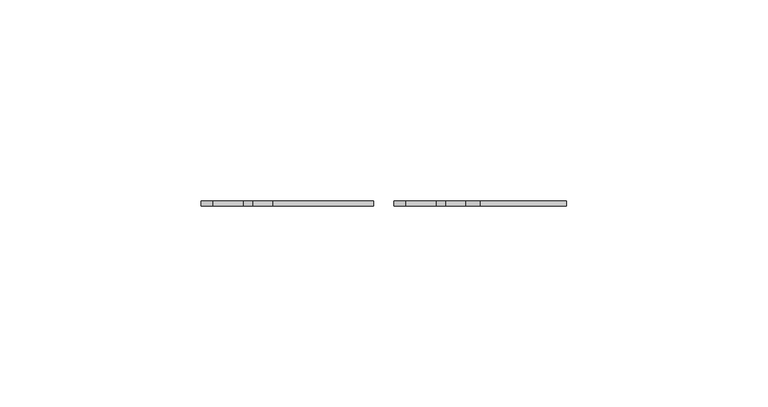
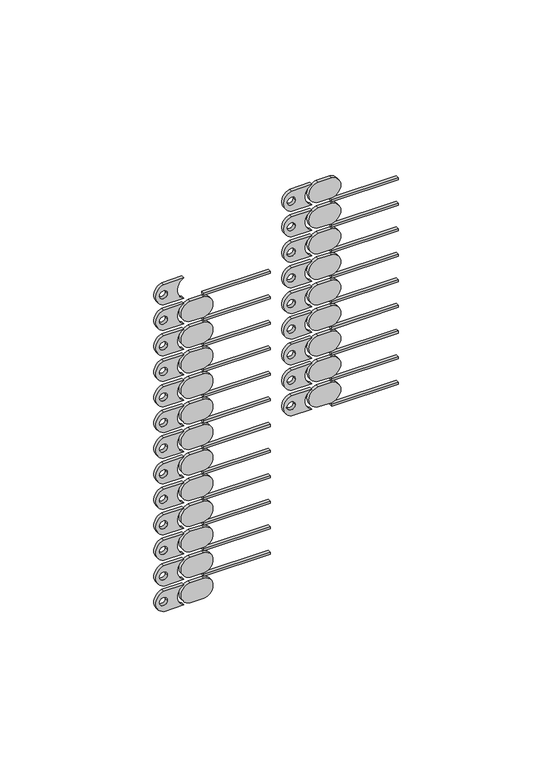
"""IFC4 building model written with IfcOpenShell, lengths in millimetres: alarm geometry, БИС-Р_тип модель : БИС-Р."""

from ifc_helpers import new_model, si_unit, point, frame, frame_2d, origin, place, context, project, spatial, polyline, circle_curve, trimmed, segment, composite_curve, outline, extrude, source, transform, mapped, element, save


def alarm_7a4e420f(model_context):
    return source(origin(), model_context, "Body", "SweptSolid", [
        extrude(outline(composite_curve([segment(polyline([(-98.2025772, 27.9937109), (-98.2025772, 35.492621)]), True, "CONTINUOUS"), segment(trimmed(circle_curve(frame_2d((-94.2003936, 37.4444958)), 4.4527845), [point((-98.2025772, 35.492621))], [point((-90.1982099, 35.492621))], True, "CARTESIAN"), True, "CONTINUOUS"), segment(polyline([(-90.1982099, 35.492621), (-90.1982099, 27.9937109)]), True, "CONTINUOUS"), segment(trimmed(circle_curve(frame_2d((-94.2003936, 29.16194)), 4.1692006), [point((-90.1982099, 27.9937109))], [point((-98.2025772, 27.9937109))], False, "CARTESIAN"), True, "CONTINUOUS")], self_intersect=False), holes=[composite_curve([segment(trimmed(circle_curve(frame_2d((-94.2003936, 27.8863884)), 1.5), [point((-94.2003936, 26.3863884))], [point((-94.2003936, 29.3863884))], True, "CARTESIAN"), True, "CONTINUOUS"), segment(trimmed(circle_curve(frame_2d((-94.2003936, 27.8863884)), 1.5), [point((-94.2003936, 29.3863884))], [point((-94.2003936, 26.3863884))], True, "CARTESIAN"), True, "CONTINUOUS")], self_intersect=False)]), frame((0.0, -14.3, 0.0), z_axis=(0.0, 1.0, 0.0), x_axis=(0.0, 0.0, 1.0)), (0.0, 0.0, 1.0), 1.3),
        extrude(outline(polyline([(67.9899793, -14.3), (42.9899793, -14.3), (42.9899793, -13.0), (67.9899793, -13.0), (67.9899793, -14.3)])), frame((0.0, 0.0, -99.6660186), z_axis=(0.0, 0.0, 1.0), x_axis=(1.0, 0.0, 0.0)), (0.0, 0.0, 1.0), 0.8214556),
        extrude(outline(composite_curve([segment(trimmed(circle_curve(frame_2d((-94.2003936, 42.4529259)), 4.0380565), [point((-98.2025772, 42.9899793))], [point((-90.1982099, 42.9899793))], False, "CARTESIAN"), True, "CONTINUOUS"), segment(polyline([(-90.1982099, 42.9899793), (-90.1982099, 37.9890848)]), True, "CONTINUOUS"), segment(trimmed(circle_curve(frame_2d((-94.2003936, 38.5403885)), 4.0399765), [point((-90.1982099, 37.9890848))], [point((-98.2025772, 37.9890848))], False, "CARTESIAN"), True, "CONTINUOUS"), segment(polyline([(-98.2025772, 37.9890848), (-98.2025772, 42.9899793)]), True, "CONTINUOUS")], self_intersect=False)), frame((0.0, -14.3, 0.0), z_axis=(0.0, 1.0, 0.0), x_axis=(0.0, 0.0, 1.0)), (0.0, 0.0, 1.0), 1.3),
        extrude(outline(composite_curve([segment(polyline([(-88.0525772, 27.9937109), (-88.0525772, 35.492621)]), True, "CONTINUOUS"), segment(trimmed(circle_curve(frame_2d((-84.0503936, 37.4444958)), 4.4527845), [point((-88.0525772, 35.492621))], [point((-80.0482099, 35.492621))], True, "CARTESIAN"), True, "CONTINUOUS"), segment(polyline([(-80.0482099, 35.492621), (-80.0482099, 27.9937109)]), True, "CONTINUOUS"), segment(trimmed(circle_curve(frame_2d((-84.0503936, 29.16194)), 4.1692006), [point((-80.0482099, 27.9937109))], [point((-88.0525772, 27.9937109))], False, "CARTESIAN"), True, "CONTINUOUS")], self_intersect=False), holes=[composite_curve([segment(trimmed(circle_curve(frame_2d((-84.0503936, 27.8863884)), 1.5), [point((-84.0503936, 26.3863884))], [point((-84.0503936, 29.3863884))], True, "CARTESIAN"), True, "CONTINUOUS"), segment(trimmed(circle_curve(frame_2d((-84.0503936, 27.8863884)), 1.5), [point((-84.0503936, 29.3863884))], [point((-84.0503936, 26.3863884))], True, "CARTESIAN"), True, "CONTINUOUS")], self_intersect=False)]), frame((0.0, -14.3, 0.0), z_axis=(0.0, 1.0, 0.0), x_axis=(0.0, 0.0, 1.0)), (0.0, 0.0, 1.0), 1.3),
        extrude(outline(polyline([(67.9899793, -14.3), (42.9899793, -14.3), (42.9899793, -13.0), (67.9899793, -13.0), (67.9899793, -14.3)])), frame((0.0, 0.0, -89.5160186), z_axis=(0.0, 0.0, 1.0), x_axis=(1.0, 0.0, 0.0)), (0.0, 0.0, 1.0), 0.8214556),
        extrude(outline(composite_curve([segment(trimmed(circle_curve(frame_2d((-84.0503936, 42.4529259)), 4.0380565), [point((-88.0525772, 42.9899793))], [point((-80.0482099, 42.9899793))], False, "CARTESIAN"), True, "CONTINUOUS"), segment(polyline([(-80.0482099, 42.9899793), (-80.0482099, 37.9890848)]), True, "CONTINUOUS"), segment(trimmed(circle_curve(frame_2d((-84.0503936, 38.5403885)), 4.0399765), [point((-80.0482099, 37.9890848))], [point((-88.0525772, 37.9890848))], False, "CARTESIAN"), True, "CONTINUOUS"), segment(polyline([(-88.0525772, 37.9890848), (-88.0525772, 42.9899793)]), True, "CONTINUOUS")], self_intersect=False)), frame((0.0, -14.3, 0.0), z_axis=(0.0, 1.0, 0.0), x_axis=(0.0, 0.0, 1.0)), (0.0, 0.0, 1.0), 1.3),
        extrude(outline(composite_curve([segment(polyline([(-77.9025772, 27.9937109), (-77.9025772, 35.492621)]), True, "CONTINUOUS"), segment(trimmed(circle_curve(frame_2d((-73.9003936, 37.4444958)), 4.4527845), [point((-77.9025772, 35.492621))], [point((-69.8982099, 35.492621))], True, "CARTESIAN"), True, "CONTINUOUS"), segment(polyline([(-69.8982099, 35.492621), (-69.8982099, 27.9937109)]), True, "CONTINUOUS"), segment(trimmed(circle_curve(frame_2d((-73.9003936, 29.16194)), 4.1692006), [point((-69.8982099, 27.9937109))], [point((-77.9025772, 27.9937109))], False, "CARTESIAN"), True, "CONTINUOUS")], self_intersect=False), holes=[composite_curve([segment(trimmed(circle_curve(frame_2d((-73.9003936, 27.8863884)), 1.5), [point((-73.9003936, 26.3863884))], [point((-73.9003936, 29.3863884))], True, "CARTESIAN"), True, "CONTINUOUS"), segment(trimmed(circle_curve(frame_2d((-73.9003936, 27.8863884)), 1.5), [point((-73.9003936, 29.3863884))], [point((-73.9003936, 26.3863884))], True, "CARTESIAN"), True, "CONTINUOUS")], self_intersect=False)]), frame((0.0, -14.3, 0.0), z_axis=(0.0, 1.0, 0.0), x_axis=(0.0, 0.0, 1.0)), (0.0, 0.0, 1.0), 1.3),
        extrude(outline(polyline([(67.9899793, -14.3), (42.9899793, -14.3), (42.9899793, -13.0), (67.9899793, -13.0), (67.9899793, -14.3)])), frame((0.0, 0.0, -79.3660186), z_axis=(0.0, 0.0, 1.0), x_axis=(1.0, 0.0, 0.0)), (0.0, 0.0, 1.0), 0.8214556),
        extrude(outline(composite_curve([segment(trimmed(circle_curve(frame_2d((-73.9003936, 42.4529259)), 4.0380565), [point((-77.9025772, 42.9899793))], [point((-69.8982099, 42.9899793))], False, "CARTESIAN"), True, "CONTINUOUS"), segment(polyline([(-69.8982099, 42.9899793), (-69.8982099, 37.9890848)]), True, "CONTINUOUS"), segment(trimmed(circle_curve(frame_2d((-73.9003936, 38.5403885)), 4.0399765), [point((-69.8982099, 37.9890848))], [point((-77.9025772, 37.9890848))], False, "CARTESIAN"), True, "CONTINUOUS"), segment(polyline([(-77.9025772, 37.9890848), (-77.9025772, 42.9899793)]), True, "CONTINUOUS")], self_intersect=False)), frame((0.0, -14.3, 0.0), z_axis=(0.0, 1.0, 0.0), x_axis=(0.0, 0.0, 1.0)), (0.0, 0.0, 1.0), 1.3),
        extrude(outline(composite_curve([segment(polyline([(-67.7525772, 27.9937109), (-67.7525772, 35.492621)]), True, "CONTINUOUS"), segment(trimmed(circle_curve(frame_2d((-63.7503936, 37.4444958)), 4.4527845), [point((-67.7525772, 35.492621))], [point((-59.7482099, 35.492621))], True, "CARTESIAN"), True, "CONTINUOUS"), segment(polyline([(-59.7482099, 35.492621), (-59.7482099, 27.9937109)]), True, "CONTINUOUS"), segment(trimmed(circle_curve(frame_2d((-63.7503936, 29.16194)), 4.1692006), [point((-59.7482099, 27.9937109))], [point((-67.7525772, 27.9937109))], False, "CARTESIAN"), True, "CONTINUOUS")], self_intersect=False), holes=[composite_curve([segment(trimmed(circle_curve(frame_2d((-63.7503936, 27.8863884)), 1.5), [point((-63.7503936, 26.3863884))], [point((-63.7503936, 29.3863884))], True, "CARTESIAN"), True, "CONTINUOUS"), segment(trimmed(circle_curve(frame_2d((-63.7503936, 27.8863884)), 1.5), [point((-63.7503936, 29.3863884))], [point((-63.7503936, 26.3863884))], True, "CARTESIAN"), True, "CONTINUOUS")], self_intersect=False)]), frame((0.0, -14.3, 0.0), z_axis=(0.0, 1.0, 0.0), x_axis=(0.0, 0.0, 1.0)), (0.0, 0.0, 1.0), 1.3),
        extrude(outline(polyline([(67.9899793, -14.3), (42.9899793, -14.3), (42.9899793, -13.0), (67.9899793, -13.0), (67.9899793, -14.3)])), frame((0.0, 0.0, -69.2160186), z_axis=(0.0, 0.0, 1.0), x_axis=(1.0, 0.0, 0.0)), (0.0, 0.0, 1.0), 0.8214556),
        extrude(outline(composite_curve([segment(trimmed(circle_curve(frame_2d((-63.7503936, 42.4529259)), 4.0380565), [point((-67.7525772, 42.9899793))], [point((-59.7482099, 42.9899793))], False, "CARTESIAN"), True, "CONTINUOUS"), segment(polyline([(-59.7482099, 42.9899793), (-59.7482099, 37.9890848)]), True, "CONTINUOUS"), segment(trimmed(circle_curve(frame_2d((-63.7503936, 38.5403885)), 4.0399765), [point((-59.7482099, 37.9890848))], [point((-67.7525772, 37.9890848))], False, "CARTESIAN"), True, "CONTINUOUS"), segment(polyline([(-67.7525772, 37.9890848), (-67.7525772, 42.9899793)]), True, "CONTINUOUS")], self_intersect=False)), frame((0.0, -14.3, 0.0), z_axis=(0.0, 1.0, 0.0), x_axis=(0.0, 0.0, 1.0)), (0.0, 0.0, 1.0), 1.3),
        extrude(outline(composite_curve([segment(polyline([(-57.6025772, 27.9937109), (-57.6025772, 35.492621)]), True, "CONTINUOUS"), segment(trimmed(circle_curve(frame_2d((-53.6003936, 37.4444958)), 4.4527845), [point((-57.6025772, 35.492621))], [point((-49.5982099, 35.492621))], True, "CARTESIAN"), True, "CONTINUOUS"), segment(polyline([(-49.5982099, 35.492621), (-49.5982099, 27.9937109)]), True, "CONTINUOUS"), segment(trimmed(circle_curve(frame_2d((-53.6003936, 29.16194)), 4.1692006), [point((-49.5982099, 27.9937109))], [point((-57.6025772, 27.9937109))], False, "CARTESIAN"), True, "CONTINUOUS")], self_intersect=False), holes=[composite_curve([segment(trimmed(circle_curve(frame_2d((-53.6003936, 27.8863884)), 1.5), [point((-53.6003936, 26.3863884))], [point((-53.6003936, 29.3863884))], True, "CARTESIAN"), True, "CONTINUOUS"), segment(trimmed(circle_curve(frame_2d((-53.6003936, 27.8863884)), 1.5), [point((-53.6003936, 29.3863884))], [point((-53.6003936, 26.3863884))], True, "CARTESIAN"), True, "CONTINUOUS")], self_intersect=False)]), frame((0.0, -14.3, 0.0), z_axis=(0.0, 1.0, 0.0), x_axis=(0.0, 0.0, 1.0)), (0.0, 0.0, 1.0), 1.3),
        extrude(outline(polyline([(67.9899793, -14.3), (42.9899793, -14.3), (42.9899793, -13.0), (67.9899793, -13.0), (67.9899793, -14.3)])), frame((0.0, 0.0, -59.0660186), z_axis=(0.0, 0.0, 1.0), x_axis=(1.0, 0.0, 0.0)), (0.0, 0.0, 1.0), 0.8214556),
        extrude(outline(composite_curve([segment(trimmed(circle_curve(frame_2d((-53.6003936, 42.4529259)), 4.0380565), [point((-57.6025772, 42.9899793))], [point((-49.5982099, 42.9899793))], False, "CARTESIAN"), True, "CONTINUOUS"), segment(polyline([(-49.5982099, 42.9899793), (-49.5982099, 37.9890848)]), True, "CONTINUOUS"), segment(trimmed(circle_curve(frame_2d((-53.6003936, 38.5403885)), 4.0399765), [point((-49.5982099, 37.9890848))], [point((-57.6025772, 37.9890848))], False, "CARTESIAN"), True, "CONTINUOUS"), segment(polyline([(-57.6025772, 37.9890848), (-57.6025772, 42.9899793)]), True, "CONTINUOUS")], self_intersect=False)), frame((0.0, -14.3, 0.0), z_axis=(0.0, 1.0, 0.0), x_axis=(0.0, 0.0, 1.0)), (0.0, 0.0, 1.0), 1.3),
        extrude(outline(composite_curve([segment(polyline([(-47.4525772, 27.9937109), (-47.4525772, 35.492621)]), True, "CONTINUOUS"), segment(trimmed(circle_curve(frame_2d((-43.4503936, 37.4444958)), 4.4527845), [point((-47.4525772, 35.492621))], [point((-39.4482099, 35.492621))], True, "CARTESIAN"), True, "CONTINUOUS"), segment(polyline([(-39.4482099, 35.492621), (-39.4482099, 27.9937109)]), True, "CONTINUOUS"), segment(trimmed(circle_curve(frame_2d((-43.4503936, 29.16194)), 4.1692006), [point((-39.4482099, 27.9937109))], [point((-47.4525772, 27.9937109))], False, "CARTESIAN"), True, "CONTINUOUS")], self_intersect=False), holes=[composite_curve([segment(trimmed(circle_curve(frame_2d((-43.4503936, 27.8863884)), 1.5), [point((-43.4503936, 26.3863884))], [point((-43.4503936, 29.3863884))], True, "CARTESIAN"), True, "CONTINUOUS"), segment(trimmed(circle_curve(frame_2d((-43.4503936, 27.8863884)), 1.5), [point((-43.4503936, 29.3863884))], [point((-43.4503936, 26.3863884))], True, "CARTESIAN"), True, "CONTINUOUS")], self_intersect=False)]), frame((0.0, -14.3, 0.0), z_axis=(0.0, 1.0, 0.0), x_axis=(0.0, 0.0, 1.0)), (0.0, 0.0, 1.0), 1.3),
        extrude(outline(polyline([(67.9899793, -14.3), (42.9899793, -14.3), (42.9899793, -13.0), (67.9899793, -13.0), (67.9899793, -14.3)])), frame((0.0, 0.0, -48.9160186), z_axis=(0.0, 0.0, 1.0), x_axis=(1.0, 0.0, 0.0)), (0.0, 0.0, 1.0), 0.8214556),
        extrude(outline(composite_curve([segment(trimmed(circle_curve(frame_2d((-43.4503936, 42.4529259)), 4.0380565), [point((-47.4525772, 42.9899793))], [point((-39.4482099, 42.9899793))], False, "CARTESIAN"), True, "CONTINUOUS"), segment(polyline([(-39.4482099, 42.9899793), (-39.4482099, 37.9890848)]), True, "CONTINUOUS"), segment(trimmed(circle_curve(frame_2d((-43.4503936, 38.5403885)), 4.0399765), [point((-39.4482099, 37.9890848))], [point((-47.4525772, 37.9890848))], False, "CARTESIAN"), True, "CONTINUOUS"), segment(polyline([(-47.4525772, 37.9890848), (-47.4525772, 42.9899793)]), True, "CONTINUOUS")], self_intersect=False)), frame((0.0, -14.3, 0.0), z_axis=(0.0, 1.0, 0.0), x_axis=(0.0, 0.0, 1.0)), (0.0, 0.0, 1.0), 1.3),
        extrude(outline(composite_curve([segment(polyline([(-37.3025772, 27.9937109), (-37.3025772, 35.492621)]), True, "CONTINUOUS"), segment(trimmed(circle_curve(frame_2d((-33.3003936, 37.4444958)), 4.4527845), [point((-37.3025772, 35.492621))], [point((-29.2982099, 35.492621))], True, "CARTESIAN"), True, "CONTINUOUS"), segment(polyline([(-29.2982099, 35.492621), (-29.2982099, 27.9937109)]), True, "CONTINUOUS"), segment(trimmed(circle_curve(frame_2d((-33.3003936, 29.16194)), 4.1692006), [point((-29.2982099, 27.9937109))], [point((-37.3025772, 27.9937109))], False, "CARTESIAN"), True, "CONTINUOUS")], self_intersect=False), holes=[composite_curve([segment(trimmed(circle_curve(frame_2d((-33.3003936, 27.8863884)), 1.5), [point((-33.3003936, 26.3863884))], [point((-33.3003936, 29.3863884))], True, "CARTESIAN"), True, "CONTINUOUS"), segment(trimmed(circle_curve(frame_2d((-33.3003936, 27.8863884)), 1.5), [point((-33.3003936, 29.3863884))], [point((-33.3003936, 26.3863884))], True, "CARTESIAN"), True, "CONTINUOUS")], self_intersect=False)]), frame((0.0, -14.3, 0.0), z_axis=(0.0, 1.0, 0.0), x_axis=(0.0, 0.0, 1.0)), (0.0, 0.0, 1.0), 1.3),
        extrude(outline(polyline([(67.9899793, -14.3), (42.9899793, -14.3), (42.9899793, -13.0), (67.9899793, -13.0), (67.9899793, -14.3)])), frame((0.0, 0.0, -38.7660186), z_axis=(0.0, 0.0, 1.0), x_axis=(1.0, 0.0, 0.0)), (0.0, 0.0, 1.0), 0.8214556),
        extrude(outline(composite_curve([segment(trimmed(circle_curve(frame_2d((-33.3003936, 42.4529259)), 4.0380565), [point((-37.3025772, 42.9899793))], [point((-29.2982099, 42.9899793))], False, "CARTESIAN"), True, "CONTINUOUS"), segment(polyline([(-29.2982099, 42.9899793), (-29.2982099, 37.9890848)]), True, "CONTINUOUS"), segment(trimmed(circle_curve(frame_2d((-33.3003936, 38.5403885)), 4.0399765), [point((-29.2982099, 37.9890848))], [point((-37.3025772, 37.9890848))], False, "CARTESIAN"), True, "CONTINUOUS"), segment(polyline([(-37.3025772, 37.9890848), (-37.3025772, 42.9899793)]), True, "CONTINUOUS")], self_intersect=False)), frame((0.0, -14.3, 0.0), z_axis=(0.0, 1.0, 0.0), x_axis=(0.0, 0.0, 1.0)), (0.0, 0.0, 1.0), 1.3),
        extrude(outline(composite_curve([segment(polyline([(-27.1525772, 27.9937109), (-27.1525772, 35.492621)]), True, "CONTINUOUS"), segment(trimmed(circle_curve(frame_2d((-23.1503936, 37.4444958)), 4.4527845), [point((-27.1525772, 35.492621))], [point((-19.1482099, 35.492621))], True, "CARTESIAN"), True, "CONTINUOUS"), segment(polyline([(-19.1482099, 35.492621), (-19.1482099, 27.9937109)]), True, "CONTINUOUS"), segment(trimmed(circle_curve(frame_2d((-23.1503936, 29.16194)), 4.1692006), [point((-19.1482099, 27.9937109))], [point((-27.1525772, 27.9937109))], False, "CARTESIAN"), True, "CONTINUOUS")], self_intersect=False), holes=[composite_curve([segment(trimmed(circle_curve(frame_2d((-23.1503936, 27.8863884)), 1.5), [point((-23.1503936, 26.3863884))], [point((-23.1503936, 29.3863884))], True, "CARTESIAN"), True, "CONTINUOUS"), segment(trimmed(circle_curve(frame_2d((-23.1503936, 27.8863884)), 1.5), [point((-23.1503936, 29.3863884))], [point((-23.1503936, 26.3863884))], True, "CARTESIAN"), True, "CONTINUOUS")], self_intersect=False)]), frame((0.0, -14.3, 0.0), z_axis=(0.0, 1.0, 0.0), x_axis=(0.0, 0.0, 1.0)), (0.0, 0.0, 1.0), 1.3),
        extrude(outline(polyline([(67.9899793, -14.3), (42.9899793, -14.3), (42.9899793, -13.0), (67.9899793, -13.0), (67.9899793, -14.3)])), frame((0.0, 0.0, -28.6160186), z_axis=(0.0, 0.0, 1.0), x_axis=(1.0, 0.0, 0.0)), (0.0, 0.0, 1.0), 0.8214556),
        extrude(outline(composite_curve([segment(trimmed(circle_curve(frame_2d((-23.1503936, 42.4529259)), 4.0380565), [point((-27.1525772, 42.9899793))], [point((-19.1482099, 42.9899793))], False, "CARTESIAN"), True, "CONTINUOUS"), segment(polyline([(-19.1482099, 42.9899793), (-19.1482099, 37.9890848)]), True, "CONTINUOUS"), segment(trimmed(circle_curve(frame_2d((-23.1503936, 38.5403885)), 4.0399765), [point((-19.1482099, 37.9890848))], [point((-27.1525772, 37.9890848))], False, "CARTESIAN"), True, "CONTINUOUS"), segment(polyline([(-27.1525772, 37.9890848), (-27.1525772, 42.9899793)]), True, "CONTINUOUS")], self_intersect=False)), frame((0.0, -14.3, 0.0), z_axis=(0.0, 1.0, 0.0), x_axis=(0.0, 0.0, 1.0)), (0.0, 0.0, 1.0), 1.3),
        extrude(outline(composite_curve([segment(polyline([(-17.0025772, 27.9937109), (-17.0025772, 35.492621)]), True, "CONTINUOUS"), segment(trimmed(circle_curve(frame_2d((-13.0003936, 37.4444958)), 4.4527845), [point((-17.0025772, 35.492621))], [point((-8.9982099, 35.492621))], True, "CARTESIAN"), True, "CONTINUOUS"), segment(polyline([(-8.9982099, 35.492621), (-8.9982099, 27.9937109)]), True, "CONTINUOUS"), segment(trimmed(circle_curve(frame_2d((-13.0003936, 29.16194)), 4.1692006), [point((-8.9982099, 27.9937109))], [point((-17.0025772, 27.9937109))], False, "CARTESIAN"), True, "CONTINUOUS")], self_intersect=False), holes=[composite_curve([segment(trimmed(circle_curve(frame_2d((-13.0003936, 27.8863884)), 1.5), [point((-13.0003936, 26.3863884))], [point((-13.0003936, 29.3863884))], True, "CARTESIAN"), True, "CONTINUOUS"), segment(trimmed(circle_curve(frame_2d((-13.0003936, 27.8863884)), 1.5), [point((-13.0003936, 29.3863884))], [point((-13.0003936, 26.3863884))], True, "CARTESIAN"), True, "CONTINUOUS")], self_intersect=False)]), frame((0.0, -14.3, 0.0), z_axis=(0.0, 1.0, 0.0), x_axis=(0.0, 0.0, 1.0)), (0.0, 0.0, 1.0), 1.3),
        extrude(outline(polyline([(67.9899793, -14.3), (42.9899793, -14.3), (42.9899793, -13.0), (67.9899793, -13.0), (67.9899793, -14.3)])), frame((0.0, 0.0, -18.4660186), z_axis=(0.0, 0.0, 1.0), x_axis=(1.0, 0.0, 0.0)), (0.0, 0.0, 1.0), 0.8214556),
        extrude(outline(composite_curve([segment(trimmed(circle_curve(frame_2d((-13.0003936, 42.4529259)), 4.0380565), [point((-17.0025772, 42.9899793))], [point((-8.9982099, 42.9899793))], False, "CARTESIAN"), True, "CONTINUOUS"), segment(polyline([(-8.9982099, 42.9899793), (-8.9982099, 37.9890848)]), True, "CONTINUOUS"), segment(trimmed(circle_curve(frame_2d((-13.0003936, 38.5403885)), 4.0399765), [point((-8.9982099, 37.9890848))], [point((-17.0025772, 37.9890848))], False, "CARTESIAN"), True, "CONTINUOUS"), segment(polyline([(-17.0025772, 37.9890848), (-17.0025772, 42.9899793)]), True, "CONTINUOUS")], self_intersect=False)), frame((0.0, -14.3, 0.0), z_axis=(0.0, 1.0, 0.0), x_axis=(0.0, 0.0, 1.0)), (0.0, 0.0, 1.0), 1.3),
        extrude(outline(composite_curve([segment(polyline([(-159.1025772, -20.003529), (-159.1025772, -12.5046189)]), True, "CONTINUOUS"), segment(trimmed(circle_curve(frame_2d((-155.1003936, -10.5527441)), 4.4527845), [point((-159.1025772, -12.5046189))], [point((-151.0982099, -12.5046189))], True, "CARTESIAN"), True, "CONTINUOUS"), segment(polyline([(-151.0982099, -12.5046189), (-151.0982099, -20.003529)]), True, "CONTINUOUS"), segment(trimmed(circle_curve(frame_2d((-155.1003936, -18.8352999)), 4.1692006), [point((-151.0982099, -20.003529))], [point((-159.1025772, -20.003529))], False, "CARTESIAN"), True, "CONTINUOUS")], self_intersect=False), holes=[composite_curve([segment(trimmed(circle_curve(frame_2d((-155.1003936, -20.1108515)), 1.5), [point((-155.1003936, -21.6108515))], [point((-155.1003936, -18.6108515))], True, "CARTESIAN"), True, "CONTINUOUS"), segment(trimmed(circle_curve(frame_2d((-155.1003936, -20.1108515)), 1.5), [point((-155.1003936, -18.6108515))], [point((-155.1003936, -21.6108515))], True, "CARTESIAN"), True, "CONTINUOUS")], self_intersect=False)]), frame((0.0, -14.3, 0.0), z_axis=(0.0, 1.0, 0.0), x_axis=(0.0, 0.0, 1.0)), (0.0, 0.0, 1.0), 1.3),
        extrude(outline(composite_curve([segment(trimmed(circle_curve(frame_2d((-155.1003936, -5.544314)), 4.0380565), [point((-159.1025772, -5.0072606))], [point((-151.0982099, -5.0072606))], False, "CARTESIAN"), True, "CONTINUOUS"), segment(polyline([(-151.0982099, -5.0072606), (-151.0982099, -10.0081551)]), True, "CONTINUOUS"), segment(trimmed(circle_curve(frame_2d((-155.1003936, -9.4568514)), 4.0399765), [point((-151.0982099, -10.0081551))], [point((-159.1025772, -10.0081551))], False, "CARTESIAN"), True, "CONTINUOUS"), segment(polyline([(-159.1025772, -10.0081551), (-159.1025772, -5.0072606)]), True, "CONTINUOUS")], self_intersect=False)), frame((0.0, -14.3, 0.0), z_axis=(0.0, 1.0, 0.0), x_axis=(0.0, 0.0, 1.0)), (0.0, 0.0, 1.0), 1.3),
        extrude(outline(composite_curve([segment(polyline([(-148.9525772, -20.003529), (-148.9525772, -12.5046189)]), True, "CONTINUOUS"), segment(trimmed(circle_curve(frame_2d((-144.9503936, -10.5527441)), 4.4527845), [point((-148.9525772, -12.5046189))], [point((-140.9482099, -12.5046189))], True, "CARTESIAN"), True, "CONTINUOUS"), segment(polyline([(-140.9482099, -12.5046189), (-140.9482099, -20.003529)]), True, "CONTINUOUS"), segment(trimmed(circle_curve(frame_2d((-144.9503936, -18.8352999)), 4.1692006), [point((-140.9482099, -20.003529))], [point((-148.9525772, -20.003529))], False, "CARTESIAN"), True, "CONTINUOUS")], self_intersect=False), holes=[composite_curve([segment(trimmed(circle_curve(frame_2d((-144.9503936, -20.1108515)), 1.5), [point((-144.9503936, -21.6108515))], [point((-144.9503936, -18.6108515))], True, "CARTESIAN"), True, "CONTINUOUS"), segment(trimmed(circle_curve(frame_2d((-144.9503936, -20.1108515)), 1.5), [point((-144.9503936, -18.6108515))], [point((-144.9503936, -21.6108515))], True, "CARTESIAN"), True, "CONTINUOUS")], self_intersect=False)]), frame((0.0, -14.3, 0.0), z_axis=(0.0, 1.0, 0.0), x_axis=(0.0, 0.0, 1.0)), (0.0, 0.0, 1.0), 1.3),
        extrude(outline(polyline([(19.9927394, -14.3), (-5.0072606, -14.3), (-5.0072606, -13.0), (19.9927394, -13.0), (19.9927394, -14.3)])), frame((0.0, 0.0, -150.4160186), z_axis=(0.0, 0.0, 1.0), x_axis=(1.0, 0.0, 0.0)), (0.0, 0.0, 1.0), 0.8214556),
        extrude(outline(composite_curve([segment(trimmed(circle_curve(frame_2d((-144.9503936, -5.544314)), 4.0380565), [point((-148.9525772, -5.0072606))], [point((-140.9482099, -5.0072606))], False, "CARTESIAN"), True, "CONTINUOUS"), segment(polyline([(-140.9482099, -5.0072606), (-140.9482099, -10.0081551)]), True, "CONTINUOUS"), segment(trimmed(circle_curve(frame_2d((-144.9503936, -9.4568514)), 4.0399765), [point((-140.9482099, -10.0081551))], [point((-148.9525772, -10.0081551))], False, "CARTESIAN"), True, "CONTINUOUS"), segment(polyline([(-148.9525772, -10.0081551), (-148.9525772, -5.0072606)]), True, "CONTINUOUS")], self_intersect=False)), frame((0.0, -14.3, 0.0), z_axis=(0.0, 1.0, 0.0), x_axis=(0.0, 0.0, 1.0)), (0.0, 0.0, 1.0), 1.3),
        extrude(outline(composite_curve([segment(polyline([(-138.8025772, -20.003529), (-138.8025772, -12.5046189)]), True, "CONTINUOUS"), segment(trimmed(circle_curve(frame_2d((-134.8003936, -10.5527441)), 4.4527845), [point((-138.8025772, -12.5046189))], [point((-130.7982099, -12.5046189))], True, "CARTESIAN"), True, "CONTINUOUS"), segment(polyline([(-130.7982099, -12.5046189), (-130.7982099, -20.003529)]), True, "CONTINUOUS"), segment(trimmed(circle_curve(frame_2d((-134.8003936, -18.8352999)), 4.1692006), [point((-130.7982099, -20.003529))], [point((-138.8025772, -20.003529))], False, "CARTESIAN"), True, "CONTINUOUS")], self_intersect=False), holes=[composite_curve([segment(trimmed(circle_curve(frame_2d((-134.8003936, -20.1108515)), 1.5), [point((-134.8003936, -21.6108515))], [point((-134.8003936, -18.6108515))], True, "CARTESIAN"), True, "CONTINUOUS"), segment(trimmed(circle_curve(frame_2d((-134.8003936, -20.1108515)), 1.5), [point((-134.8003936, -18.6108515))], [point((-134.8003936, -21.6108515))], True, "CARTESIAN"), True, "CONTINUOUS")], self_intersect=False)]), frame((0.0, -14.3, 0.0), z_axis=(0.0, 1.0, 0.0), x_axis=(0.0, 0.0, 1.0)), (0.0, 0.0, 1.0), 1.3),
        extrude(outline(polyline([(19.9927394, -14.3), (-5.0072606, -14.3), (-5.0072606, -13.0), (19.9927394, -13.0), (19.9927394, -14.3)])), frame((0.0, 0.0, -140.2660186), z_axis=(0.0, 0.0, 1.0), x_axis=(1.0, 0.0, 0.0)), (0.0, 0.0, 1.0), 0.8214556),
        extrude(outline(composite_curve([segment(trimmed(circle_curve(frame_2d((-134.8003936, -5.544314)), 4.0380565), [point((-138.8025772, -5.0072606))], [point((-130.7982099, -5.0072606))], False, "CARTESIAN"), True, "CONTINUOUS"), segment(polyline([(-130.7982099, -5.0072606), (-130.7982099, -10.0081551)]), True, "CONTINUOUS"), segment(trimmed(circle_curve(frame_2d((-134.8003936, -9.4568514)), 4.0399765), [point((-130.7982099, -10.0081551))], [point((-138.8025772, -10.0081551))], False, "CARTESIAN"), True, "CONTINUOUS"), segment(polyline([(-138.8025772, -10.0081551), (-138.8025772, -5.0072606)]), True, "CONTINUOUS")], self_intersect=False)), frame((0.0, -14.3, 0.0), z_axis=(0.0, 1.0, 0.0), x_axis=(0.0, 0.0, 1.0)), (0.0, 0.0, 1.0), 1.3),
        extrude(outline(composite_curve([segment(polyline([(-128.6525772, -20.003529), (-128.6525772, -12.5046189)]), True, "CONTINUOUS"), segment(trimmed(circle_curve(frame_2d((-124.6503936, -10.5527441)), 4.4527845), [point((-128.6525772, -12.5046189))], [point((-120.6482099, -12.5046189))], True, "CARTESIAN"), True, "CONTINUOUS"), segment(polyline([(-120.6482099, -12.5046189), (-120.6482099, -20.003529)]), True, "CONTINUOUS"), segment(trimmed(circle_curve(frame_2d((-124.6503936, -18.8352999)), 4.1692006), [point((-120.6482099, -20.003529))], [point((-128.6525772, -20.003529))], False, "CARTESIAN"), True, "CONTINUOUS")], self_intersect=False), holes=[composite_curve([segment(trimmed(circle_curve(frame_2d((-124.6503936, -20.1108515)), 1.5), [point((-124.6503936, -21.6108515))], [point((-124.6503936, -18.6108515))], True, "CARTESIAN"), True, "CONTINUOUS"), segment(trimmed(circle_curve(frame_2d((-124.6503936, -20.1108515)), 1.5), [point((-124.6503936, -18.6108515))], [point((-124.6503936, -21.6108515))], True, "CARTESIAN"), True, "CONTINUOUS")], self_intersect=False)]), frame((0.0, -14.3, 0.0), z_axis=(0.0, 1.0, 0.0), x_axis=(0.0, 0.0, 1.0)), (0.0, 0.0, 1.0), 1.3),
        extrude(outline(polyline([(19.9927394, -14.3), (-5.0072606, -14.3), (-5.0072606, -13.0), (19.9927394, -13.0), (19.9927394, -14.3)])), frame((0.0, 0.0, -130.1160186), z_axis=(0.0, 0.0, 1.0), x_axis=(1.0, 0.0, 0.0)), (0.0, 0.0, 1.0), 0.8214556),
        extrude(outline(composite_curve([segment(trimmed(circle_curve(frame_2d((-124.6503936, -5.544314)), 4.0380565), [point((-128.6525772, -5.0072606))], [point((-120.6482099, -5.0072606))], False, "CARTESIAN"), True, "CONTINUOUS"), segment(polyline([(-120.6482099, -5.0072606), (-120.6482099, -10.0081551)]), True, "CONTINUOUS"), segment(trimmed(circle_curve(frame_2d((-124.6503936, -9.4568514)), 4.0399765), [point((-120.6482099, -10.0081551))], [point((-128.6525772, -10.0081551))], False, "CARTESIAN"), True, "CONTINUOUS"), segment(polyline([(-128.6525772, -10.0081551), (-128.6525772, -5.0072606)]), True, "CONTINUOUS")], self_intersect=False)), frame((0.0, -14.3, 0.0), z_axis=(0.0, 1.0, 0.0), x_axis=(0.0, 0.0, 1.0)), (0.0, 0.0, 1.0), 1.3),
        extrude(outline(composite_curve([segment(polyline([(-118.5025772, -20.003529), (-118.5025772, -12.5046189)]), True, "CONTINUOUS"), segment(trimmed(circle_curve(frame_2d((-114.5003936, -10.5527441)), 4.4527845), [point((-118.5025772, -12.5046189))], [point((-110.4982099, -12.5046189))], True, "CARTESIAN"), True, "CONTINUOUS"), segment(polyline([(-110.4982099, -12.5046189), (-110.4982099, -20.003529)]), True, "CONTINUOUS"), segment(trimmed(circle_curve(frame_2d((-114.5003936, -18.8352999)), 4.1692006), [point((-110.4982099, -20.003529))], [point((-118.5025772, -20.003529))], False, "CARTESIAN"), True, "CONTINUOUS")], self_intersect=False), holes=[composite_curve([segment(trimmed(circle_curve(frame_2d((-114.5003936, -20.1108515)), 1.5), [point((-114.5003936, -21.6108515))], [point((-114.5003936, -18.6108515))], True, "CARTESIAN"), True, "CONTINUOUS"), segment(trimmed(circle_curve(frame_2d((-114.5003936, -20.1108515)), 1.5), [point((-114.5003936, -18.6108515))], [point((-114.5003936, -21.6108515))], True, "CARTESIAN"), True, "CONTINUOUS")], self_intersect=False)]), frame((0.0, -14.3, 0.0), z_axis=(0.0, 1.0, 0.0), x_axis=(0.0, 0.0, 1.0)), (0.0, 0.0, 1.0), 1.3),
        extrude(outline(polyline([(19.9927394, -14.3), (-5.0072606, -14.3), (-5.0072606, -13.0), (19.9927394, -13.0), (19.9927394, -14.3)])), frame((0.0, 0.0, -119.9660186), z_axis=(0.0, 0.0, 1.0), x_axis=(1.0, 0.0, 0.0)), (0.0, 0.0, 1.0), 0.8214556),
        extrude(outline(composite_curve([segment(trimmed(circle_curve(frame_2d((-114.5003936, -5.544314)), 4.0380565), [point((-118.5025772, -5.0072606))], [point((-110.4982099, -5.0072606))], False, "CARTESIAN"), True, "CONTINUOUS"), segment(polyline([(-110.4982099, -5.0072606), (-110.4982099, -10.0081551)]), True, "CONTINUOUS"), segment(trimmed(circle_curve(frame_2d((-114.5003936, -9.4568514)), 4.0399765), [point((-110.4982099, -10.0081551))], [point((-118.5025772, -10.0081551))], False, "CARTESIAN"), True, "CONTINUOUS"), segment(polyline([(-118.5025772, -10.0081551), (-118.5025772, -5.0072606)]), True, "CONTINUOUS")], self_intersect=False)), frame((0.0, -14.3, 0.0), z_axis=(0.0, 1.0, 0.0), x_axis=(0.0, 0.0, 1.0)), (0.0, 0.0, 1.0), 1.3),
        extrude(outline(composite_curve([segment(polyline([(-108.3525772, -20.003529), (-108.3525772, -12.5046189)]), True, "CONTINUOUS"), segment(trimmed(circle_curve(frame_2d((-104.3503936, -10.5527441)), 4.4527845), [point((-108.3525772, -12.5046189))], [point((-100.3482099, -12.5046189))], True, "CARTESIAN"), True, "CONTINUOUS"), segment(polyline([(-100.3482099, -12.5046189), (-100.3482099, -20.003529)]), True, "CONTINUOUS"), segment(trimmed(circle_curve(frame_2d((-104.3503936, -18.8352999)), 4.1692006), [point((-100.3482099, -20.003529))], [point((-108.3525772, -20.003529))], False, "CARTESIAN"), True, "CONTINUOUS")], self_intersect=False), holes=[composite_curve([segment(trimmed(circle_curve(frame_2d((-104.3503936, -20.1108515)), 1.5), [point((-104.3503936, -21.6108515))], [point((-104.3503936, -18.6108515))], True, "CARTESIAN"), True, "CONTINUOUS"), segment(trimmed(circle_curve(frame_2d((-104.3503936, -20.1108515)), 1.5), [point((-104.3503936, -18.6108515))], [point((-104.3503936, -21.6108515))], True, "CARTESIAN"), True, "CONTINUOUS")], self_intersect=False)]), frame((0.0, -14.3, 0.0), z_axis=(0.0, 1.0, 0.0), x_axis=(0.0, 0.0, 1.0)), (0.0, 0.0, 1.0), 1.3),
        extrude(outline(polyline([(19.9927394, -14.3), (-5.0072606, -14.3), (-5.0072606, -13.0), (19.9927394, -13.0), (19.9927394, -14.3)])), frame((0.0, 0.0, -109.8160186), z_axis=(0.0, 0.0, 1.0), x_axis=(1.0, 0.0, 0.0)), (0.0, 0.0, 1.0), 0.8214556),
        extrude(outline(composite_curve([segment(trimmed(circle_curve(frame_2d((-104.3503936, -5.544314)), 4.0380565), [point((-108.3525772, -5.0072606))], [point((-100.3482099, -5.0072606))], False, "CARTESIAN"), True, "CONTINUOUS"), segment(polyline([(-100.3482099, -5.0072606), (-100.3482099, -10.0081551)]), True, "CONTINUOUS"), segment(trimmed(circle_curve(frame_2d((-104.3503936, -9.4568514)), 4.0399765), [point((-100.3482099, -10.0081551))], [point((-108.3525772, -10.0081551))], False, "CARTESIAN"), True, "CONTINUOUS"), segment(polyline([(-108.3525772, -10.0081551), (-108.3525772, -5.0072606)]), True, "CONTINUOUS")], self_intersect=False)), frame((0.0, -14.3, 0.0), z_axis=(0.0, 1.0, 0.0), x_axis=(0.0, 0.0, 1.0)), (0.0, 0.0, 1.0), 1.3),
        extrude(outline(composite_curve([segment(polyline([(-98.2025772, -20.003529), (-98.2025772, -12.5046189)]), True, "CONTINUOUS"), segment(trimmed(circle_curve(frame_2d((-94.2003936, -10.5527441)), 4.4527845), [point((-98.2025772, -12.5046189))], [point((-90.1982099, -12.5046189))], True, "CARTESIAN"), True, "CONTINUOUS"), segment(polyline([(-90.1982099, -12.5046189), (-90.1982099, -20.003529)]), True, "CONTINUOUS"), segment(trimmed(circle_curve(frame_2d((-94.2003936, -18.8352999)), 4.1692006), [point((-90.1982099, -20.003529))], [point((-98.2025772, -20.003529))], False, "CARTESIAN"), True, "CONTINUOUS")], self_intersect=False), holes=[composite_curve([segment(trimmed(circle_curve(frame_2d((-94.2003936, -20.1108515)), 1.5), [point((-94.2003936, -21.6108515))], [point((-94.2003936, -18.6108515))], True, "CARTESIAN"), True, "CONTINUOUS"), segment(trimmed(circle_curve(frame_2d((-94.2003936, -20.1108515)), 1.5), [point((-94.2003936, -18.6108515))], [point((-94.2003936, -21.6108515))], True, "CARTESIAN"), True, "CONTINUOUS")], self_intersect=False)]), frame((0.0, -14.3, 0.0), z_axis=(0.0, 1.0, 0.0), x_axis=(0.0, 0.0, 1.0)), (0.0, 0.0, 1.0), 1.3),
        extrude(outline(polyline([(19.9927394, -14.3), (-5.0072606, -14.3), (-5.0072606, -13.0), (19.9927394, -13.0), (19.9927394, -14.3)])), frame((0.0, 0.0, -99.6660186), z_axis=(0.0, 0.0, 1.0), x_axis=(1.0, 0.0, 0.0)), (0.0, 0.0, 1.0), 0.8214556),
        extrude(outline(composite_curve([segment(trimmed(circle_curve(frame_2d((-94.2003936, -5.544314)), 4.0380565), [point((-98.2025772, -5.0072606))], [point((-90.1982099, -5.0072606))], False, "CARTESIAN"), True, "CONTINUOUS"), segment(polyline([(-90.1982099, -5.0072606), (-90.1982099, -10.0081551)]), True, "CONTINUOUS"), segment(trimmed(circle_curve(frame_2d((-94.2003936, -9.4568514)), 4.0399765), [point((-90.1982099, -10.0081551))], [point((-98.2025772, -10.0081551))], False, "CARTESIAN"), True, "CONTINUOUS"), segment(polyline([(-98.2025772, -10.0081551), (-98.2025772, -5.0072606)]), True, "CONTINUOUS")], self_intersect=False)), frame((0.0, -14.3, 0.0), z_axis=(0.0, 1.0, 0.0), x_axis=(0.0, 0.0, 1.0)), (0.0, 0.0, 1.0), 1.3),
        extrude(outline(composite_curve([segment(polyline([(-88.0525772, -20.003529), (-88.0525772, -12.5046189)]), True, "CONTINUOUS"), segment(trimmed(circle_curve(frame_2d((-84.0503936, -10.5527441)), 4.4527845), [point((-88.0525772, -12.5046189))], [point((-80.0482099, -12.5046189))], True, "CARTESIAN"), True, "CONTINUOUS"), segment(polyline([(-80.0482099, -12.5046189), (-80.0482099, -20.003529)]), True, "CONTINUOUS"), segment(trimmed(circle_curve(frame_2d((-84.0503936, -18.8352999)), 4.1692006), [point((-80.0482099, -20.003529))], [point((-88.0525772, -20.003529))], False, "CARTESIAN"), True, "CONTINUOUS")], self_intersect=False), holes=[composite_curve([segment(trimmed(circle_curve(frame_2d((-84.0503936, -20.1108515)), 1.5), [point((-84.0503936, -21.6108515))], [point((-84.0503936, -18.6108515))], True, "CARTESIAN"), True, "CONTINUOUS"), segment(trimmed(circle_curve(frame_2d((-84.0503936, -20.1108515)), 1.5), [point((-84.0503936, -18.6108515))], [point((-84.0503936, -21.6108515))], True, "CARTESIAN"), True, "CONTINUOUS")], self_intersect=False)]), frame((0.0, -14.3, 0.0), z_axis=(0.0, 1.0, 0.0), x_axis=(0.0, 0.0, 1.0)), (0.0, 0.0, 1.0), 1.3),
        extrude(outline(polyline([(19.9927394, -14.3), (-5.0072606, -14.3), (-5.0072606, -13.0), (19.9927394, -13.0), (19.9927394, -14.3)])), frame((0.0, 0.0, -89.5160186), z_axis=(0.0, 0.0, 1.0), x_axis=(1.0, 0.0, 0.0)), (0.0, 0.0, 1.0), 0.8214556),
        extrude(outline(composite_curve([segment(trimmed(circle_curve(frame_2d((-84.0503936, -5.544314)), 4.0380565), [point((-88.0525772, -5.0072606))], [point((-80.0482099, -5.0072606))], False, "CARTESIAN"), True, "CONTINUOUS"), segment(polyline([(-80.0482099, -5.0072606), (-80.0482099, -10.0081551)]), True, "CONTINUOUS"), segment(trimmed(circle_curve(frame_2d((-84.0503936, -9.4568514)), 4.0399765), [point((-80.0482099, -10.0081551))], [point((-88.0525772, -10.0081551))], False, "CARTESIAN"), True, "CONTINUOUS"), segment(polyline([(-88.0525772, -10.0081551), (-88.0525772, -5.0072606)]), True, "CONTINUOUS")], self_intersect=False)), frame((0.0, -14.3, 0.0), z_axis=(0.0, 1.0, 0.0), x_axis=(0.0, 0.0, 1.0)), (0.0, 0.0, 1.0), 1.3),
        extrude(outline(composite_curve([segment(polyline([(-77.9025772, -20.003529), (-77.9025772, -12.5046189)]), True, "CONTINUOUS"), segment(trimmed(circle_curve(frame_2d((-73.9003936, -10.5527441)), 4.4527845), [point((-77.9025772, -12.5046189))], [point((-69.8982099, -12.5046189))], True, "CARTESIAN"), True, "CONTINUOUS"), segment(polyline([(-69.8982099, -12.5046189), (-69.8982099, -20.003529)]), True, "CONTINUOUS"), segment(trimmed(circle_curve(frame_2d((-73.9003936, -18.8352999)), 4.1692006), [point((-69.8982099, -20.003529))], [point((-77.9025772, -20.003529))], False, "CARTESIAN"), True, "CONTINUOUS")], self_intersect=False), holes=[composite_curve([segment(trimmed(circle_curve(frame_2d((-73.9003936, -20.1108515)), 1.5), [point((-73.9003936, -21.6108515))], [point((-73.9003936, -18.6108515))], True, "CARTESIAN"), True, "CONTINUOUS"), segment(trimmed(circle_curve(frame_2d((-73.9003936, -20.1108515)), 1.5), [point((-73.9003936, -18.6108515))], [point((-73.9003936, -21.6108515))], True, "CARTESIAN"), True, "CONTINUOUS")], self_intersect=False)]), frame((0.0, -14.3, 0.0), z_axis=(0.0, 1.0, 0.0), x_axis=(0.0, 0.0, 1.0)), (0.0, 0.0, 1.0), 1.3),
        extrude(outline(polyline([(19.9927394, -14.3), (-5.0072606, -14.3), (-5.0072606, -13.0), (19.9927394, -13.0), (19.9927394, -14.3)])), frame((0.0, 0.0, -79.3660186), z_axis=(0.0, 0.0, 1.0), x_axis=(1.0, 0.0, 0.0)), (0.0, 0.0, 1.0), 0.8214556),
        extrude(outline(composite_curve([segment(trimmed(circle_curve(frame_2d((-73.9003936, -5.544314)), 4.0380565), [point((-77.9025772, -5.0072606))], [point((-69.8982099, -5.0072606))], False, "CARTESIAN"), True, "CONTINUOUS"), segment(polyline([(-69.8982099, -5.0072606), (-69.8982099, -10.0081551)]), True, "CONTINUOUS"), segment(trimmed(circle_curve(frame_2d((-73.9003936, -9.4568514)), 4.0399765), [point((-69.8982099, -10.0081551))], [point((-77.9025772, -10.0081551))], False, "CARTESIAN"), True, "CONTINUOUS"), segment(polyline([(-77.9025772, -10.0081551), (-77.9025772, -5.0072606)]), True, "CONTINUOUS")], self_intersect=False)), frame((0.0, -14.3, 0.0), z_axis=(0.0, 1.0, 0.0), x_axis=(0.0, 0.0, 1.0)), (0.0, 0.0, 1.0), 1.3),
        extrude(outline(composite_curve([segment(polyline([(-67.7525772, -20.003529), (-67.7525772, -12.5046189)]), True, "CONTINUOUS"), segment(trimmed(circle_curve(frame_2d((-63.7503936, -10.5527441)), 4.4527845), [point((-67.7525772, -12.5046189))], [point((-59.7482099, -12.5046189))], True, "CARTESIAN"), True, "CONTINUOUS"), segment(polyline([(-59.7482099, -12.5046189), (-59.7482099, -20.003529)]), True, "CONTINUOUS"), segment(trimmed(circle_curve(frame_2d((-63.7503936, -18.8352999)), 4.1692006), [point((-59.7482099, -20.003529))], [point((-67.7525772, -20.003529))], False, "CARTESIAN"), True, "CONTINUOUS")], self_intersect=False), holes=[composite_curve([segment(trimmed(circle_curve(frame_2d((-63.7503936, -20.1108515)), 1.5), [point((-63.7503936, -21.6108515))], [point((-63.7503936, -18.6108515))], True, "CARTESIAN"), True, "CONTINUOUS"), segment(trimmed(circle_curve(frame_2d((-63.7503936, -20.1108515)), 1.5), [point((-63.7503936, -18.6108515))], [point((-63.7503936, -21.6108515))], True, "CARTESIAN"), True, "CONTINUOUS")], self_intersect=False)]), frame((0.0, -14.3, 0.0), z_axis=(0.0, 1.0, 0.0), x_axis=(0.0, 0.0, 1.0)), (0.0, 0.0, 1.0), 1.3),
        extrude(outline(polyline([(19.9927394, -14.3), (-5.0072606, -14.3), (-5.0072606, -13.0), (19.9927394, -13.0), (19.9927394, -14.3)])), frame((0.0, 0.0, -69.2160186), z_axis=(0.0, 0.0, 1.0), x_axis=(1.0, 0.0, 0.0)), (0.0, 0.0, 1.0), 0.8214556),
        extrude(outline(composite_curve([segment(trimmed(circle_curve(frame_2d((-63.7503936, -5.544314)), 4.0380565), [point((-67.7525772, -5.0072606))], [point((-59.7482099, -5.0072606))], False, "CARTESIAN"), True, "CONTINUOUS"), segment(polyline([(-59.7482099, -5.0072606), (-59.7482099, -10.0081551)]), True, "CONTINUOUS"), segment(trimmed(circle_curve(frame_2d((-63.7503936, -9.4568514)), 4.0399765), [point((-59.7482099, -10.0081551))], [point((-67.7525772, -10.0081551))], False, "CARTESIAN"), True, "CONTINUOUS"), segment(polyline([(-67.7525772, -10.0081551), (-67.7525772, -5.0072606)]), True, "CONTINUOUS")], self_intersect=False)), frame((0.0, -14.3, 0.0), z_axis=(0.0, 1.0, 0.0), x_axis=(0.0, 0.0, 1.0)), (0.0, 0.0, 1.0), 1.3),
        extrude(outline(composite_curve([segment(polyline([(-57.6025772, -20.003529), (-57.6025772, -12.5046189)]), True, "CONTINUOUS"), segment(trimmed(circle_curve(frame_2d((-53.6003936, -10.5527441)), 4.4527845), [point((-57.6025772, -12.5046189))], [point((-49.5982099, -12.5046189))], True, "CARTESIAN"), True, "CONTINUOUS"), segment(polyline([(-49.5982099, -12.5046189), (-49.5982099, -20.003529)]), True, "CONTINUOUS"), segment(trimmed(circle_curve(frame_2d((-53.6003936, -18.8352999)), 4.1692006), [point((-49.5982099, -20.003529))], [point((-57.6025772, -20.003529))], False, "CARTESIAN"), True, "CONTINUOUS")], self_intersect=False), holes=[composite_curve([segment(trimmed(circle_curve(frame_2d((-53.6003936, -20.1108515)), 1.5), [point((-53.6003936, -21.6108515))], [point((-53.6003936, -18.6108515))], True, "CARTESIAN"), True, "CONTINUOUS"), segment(trimmed(circle_curve(frame_2d((-53.6003936, -20.1108515)), 1.5), [point((-53.6003936, -18.6108515))], [point((-53.6003936, -21.6108515))], True, "CARTESIAN"), True, "CONTINUOUS")], self_intersect=False)]), frame((0.0, -14.3, 0.0), z_axis=(0.0, 1.0, 0.0), x_axis=(0.0, 0.0, 1.0)), (0.0, 0.0, 1.0), 1.3),
        extrude(outline(polyline([(19.9927394, -14.3), (-5.0072606, -14.3), (-5.0072606, -13.0), (19.9927394, -13.0), (19.9927394, -14.3)])), frame((0.0, 0.0, -59.0660186), z_axis=(0.0, 0.0, 1.0), x_axis=(1.0, 0.0, 0.0)), (0.0, 0.0, 1.0), 0.8214556),
        extrude(outline(composite_curve([segment(trimmed(circle_curve(frame_2d((-53.6003936, -5.544314)), 4.0380565), [point((-57.6025772, -5.0072606))], [point((-49.5982099, -5.0072606))], False, "CARTESIAN"), True, "CONTINUOUS"), segment(polyline([(-49.5982099, -5.0072606), (-49.5982099, -10.0081551)]), True, "CONTINUOUS"), segment(trimmed(circle_curve(frame_2d((-53.6003936, -9.4568514)), 4.0399765), [point((-49.5982099, -10.0081551))], [point((-57.6025772, -10.0081551))], False, "CARTESIAN"), True, "CONTINUOUS"), segment(polyline([(-57.6025772, -10.0081551), (-57.6025772, -5.0072606)]), True, "CONTINUOUS")], self_intersect=False)), frame((0.0, -14.3, 0.0), z_axis=(0.0, 1.0, 0.0), x_axis=(0.0, 0.0, 1.0)), (0.0, 0.0, 1.0), 1.3),
        extrude(outline(composite_curve([segment(polyline([(-47.4525772, -20.003529), (-47.4525772, -12.5046189)]), True, "CONTINUOUS"), segment(trimmed(circle_curve(frame_2d((-43.4503936, -10.5527441)), 4.4527845), [point((-47.4525772, -12.5046189))], [point((-39.4482099, -12.5046189))], True, "CARTESIAN"), True, "CONTINUOUS"), segment(polyline([(-39.4482099, -12.5046189), (-39.4482099, -20.003529)]), True, "CONTINUOUS"), segment(trimmed(circle_curve(frame_2d((-43.4503936, -18.8352999)), 4.1692006), [point((-39.4482099, -20.003529))], [point((-47.4525772, -20.003529))], False, "CARTESIAN"), True, "CONTINUOUS")], self_intersect=False), holes=[composite_curve([segment(trimmed(circle_curve(frame_2d((-43.4503936, -20.1108515)), 1.5), [point((-43.4503936, -21.6108515))], [point((-43.4503936, -18.6108515))], True, "CARTESIAN"), True, "CONTINUOUS"), segment(trimmed(circle_curve(frame_2d((-43.4503936, -20.1108515)), 1.5), [point((-43.4503936, -18.6108515))], [point((-43.4503936, -21.6108515))], True, "CARTESIAN"), True, "CONTINUOUS")], self_intersect=False)]), frame((0.0, -14.3, 0.0), z_axis=(0.0, 1.0, 0.0), x_axis=(0.0, 0.0, 1.0)), (0.0, 0.0, 1.0), 1.3),
        extrude(outline(polyline([(19.9927394, -14.3), (-5.0072606, -14.3), (-5.0072606, -13.0), (19.9927394, -13.0), (19.9927394, -14.3)])), frame((0.0, 0.0, -48.9160186), z_axis=(0.0, 0.0, 1.0), x_axis=(1.0, 0.0, 0.0)), (0.0, 0.0, 1.0), 0.8214556),
        extrude(outline(composite_curve([segment(trimmed(circle_curve(frame_2d((-43.4503936, -5.544314)), 4.0380565), [point((-47.4525772, -5.0072606))], [point((-39.4482099, -5.0072606))], False, "CARTESIAN"), True, "CONTINUOUS"), segment(polyline([(-39.4482099, -5.0072606), (-39.4482099, -10.0081551)]), True, "CONTINUOUS"), segment(trimmed(circle_curve(frame_2d((-43.4503936, -9.4568514)), 4.0399765), [point((-39.4482099, -10.0081551))], [point((-47.4525772, -10.0081551))], False, "CARTESIAN"), True, "CONTINUOUS"), segment(polyline([(-47.4525772, -10.0081551), (-47.4525772, -5.0072606)]), True, "CONTINUOUS")], self_intersect=False)), frame((0.0, -14.3, 0.0), z_axis=(0.0, 1.0, 0.0), x_axis=(0.0, 0.0, 1.0)), (0.0, 0.0, 1.0), 1.3),
        extrude(outline(composite_curve([segment(polyline([(-37.3025772, -20.003529), (-37.3025772, -12.5046189)]), True, "CONTINUOUS"), segment(trimmed(circle_curve(frame_2d((-33.3003936, -10.5527441)), 4.4527845), [point((-37.3025772, -12.5046189))], [point((-29.2982099, -12.5046189))], True, "CARTESIAN"), True, "CONTINUOUS"), segment(polyline([(-29.2982099, -12.5046189), (-29.2982099, -20.003529)]), True, "CONTINUOUS"), segment(trimmed(circle_curve(frame_2d((-33.3003936, -18.8352999)), 4.1692006), [point((-29.2982099, -20.003529))], [point((-37.3025772, -20.003529))], False, "CARTESIAN"), True, "CONTINUOUS")], self_intersect=False), holes=[composite_curve([segment(trimmed(circle_curve(frame_2d((-33.3003936, -20.1108515)), 1.5), [point((-33.3003936, -21.6108515))], [point((-33.3003936, -18.6108515))], True, "CARTESIAN"), True, "CONTINUOUS"), segment(trimmed(circle_curve(frame_2d((-33.3003936, -20.1108515)), 1.5), [point((-33.3003936, -18.6108515))], [point((-33.3003936, -21.6108515))], True, "CARTESIAN"), True, "CONTINUOUS")], self_intersect=False)]), frame((0.0, -14.3, 0.0), z_axis=(0.0, 1.0, 0.0), x_axis=(0.0, 0.0, 1.0)), (0.0, 0.0, 1.0), 1.3),
        extrude(outline(polyline([(19.9927394, -14.3), (-5.0072606, -14.3), (-5.0072606, -13.0), (19.9927394, -13.0), (19.9927394, -14.3)])), frame((0.0, 0.0, -38.7660186), z_axis=(0.0, 0.0, 1.0), x_axis=(1.0, 0.0, 0.0)), (0.0, 0.0, 1.0), 0.8214556),
    ])


if __name__ == "__main__":
    model = new_model("IFC4")
    model_context = context("Model", 3, world=origin())
    ifc_project = project(units=[si_unit("LENGTHUNIT", "METRE", prefix="MILLI")], contexts=[model_context])
    site = spatial("IfcSite", under=ifc_project)
    building = spatial("IfcBuilding", under=site)
    placement = place(None, origin())
    alarm_shape = alarm_7a4e420f(model_context)
    element("IfcAlarm", 1, ObjectType="БИС-Р_тип модель : БИС-Р", at=placement, inside=building, context=model_context, shape_type="MappedRepresentation", body=[
        mapped(alarm_shape, transform((0.0, 0.0, 0.0), x_axis=(1.0, 0.0, 0.0), y_axis=(0.0, 1.0, 0.0), z_axis=(0.0, 0.0, 1.0))),
    ])
    save(model, "model.ifc")
